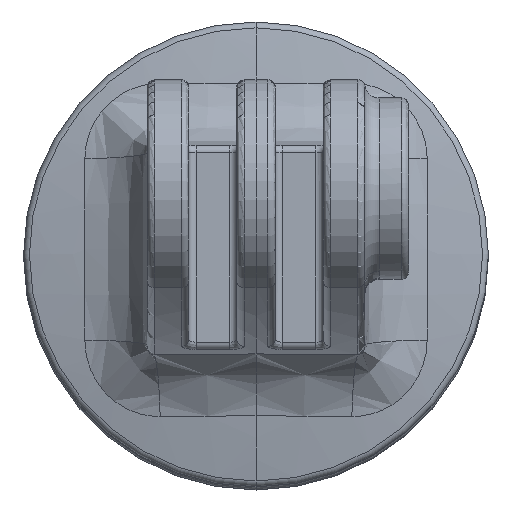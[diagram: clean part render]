
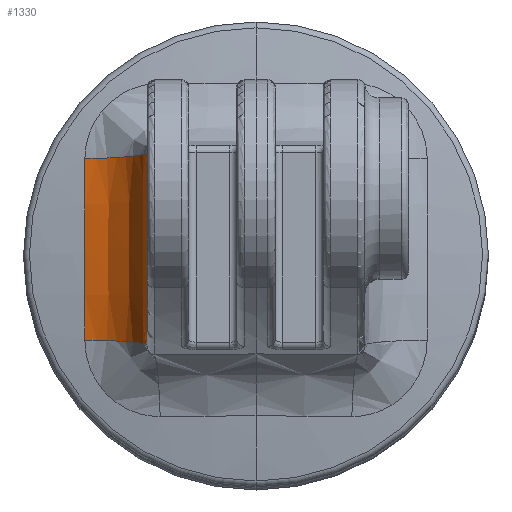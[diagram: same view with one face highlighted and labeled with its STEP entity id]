
A CAD part, top view. The second image highlights one B-rep face of the part: STEP entity #1330.
In plain terms, the highlighted free-form (B-spline) face has degree [3, 2] with [12, 3] control points.
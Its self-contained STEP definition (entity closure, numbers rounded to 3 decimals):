
#1330=ADVANCED_FACE('',(#3216),#3217,.F.);
#3216=FACE_OUTER_BOUND('',#8618,.T.);
#3217=(B_SPLINE_SURFACE(3,2,((#8620,#8621,#8622),(#8623,#8624,#8625),(#8626,#8627,#8628),(#8629,#8630,#8631),(#8632,#8633,#8634),(#8635,#8636,#8637),(#8638,#8639,#8640),(#8641,#8642,#8643),(#8644,#8645,#8646),(#8647,#8648,#8649),(#8650,#8651,#8652),(#8653,#8654,#8655)),.UNSPECIFIED.,.F.,.F.,.F.)B_SPLINE_SURFACE_WITH_KNOTS((4,2,2,2,2,4),(3,3),(0.,0.003,0.005,0.007,0.01,0.013),(0.0,1.0),.UNSPECIFIED.)RATIONAL_B_SPLINE_SURFACE(((1.0,0.756,1.0),(1.0,0.756,1.0),(1.0,0.756,1.0),(1.0,0.756,1.0),(1.0,0.756,1.0),(1.0,0.756,1.0),(1.0,0.756,1.0),(1.0,0.756,1.0),(1.0,0.756,1.0),(1.0,0.756,1.0),(1.0,0.756,1.0),(1.0,0.756,1.0)))BOUNDED_SURFACE()REPRESENTATION_ITEM('')GEOMETRIC_REPRESENTATION_ITEM()SURFACE());
#8618=EDGE_LOOP('',(#19353,#19354,#19355,#19356));
#8620=CARTESIAN_POINT('',(-11.781,-5.9,120.515));
#8621=CARTESIAN_POINT('',(-7.5,-5.945,121.135));
#8622=CARTESIAN_POINT('',(-7.5,-6.26,125.45));
#8623=CARTESIAN_POINT('',(-11.783,-4.859,120.591));
#8624=CARTESIAN_POINT('',(-7.5,-4.896,121.21));
#8625=CARTESIAN_POINT('',(-7.5,-5.154,125.531));
#8626=CARTESIAN_POINT('',(-11.785,-3.817,120.646));
#8627=CARTESIAN_POINT('',(-7.5,-3.846,121.265));
#8628=CARTESIAN_POINT('',(-7.5,-4.049,125.589));
#8629=CARTESIAN_POINT('',(-11.786,-2.255,120.699));
#8630=CARTESIAN_POINT('',(-7.5,-2.272,121.317));
#8631=CARTESIAN_POINT('',(-7.5,-2.391,125.646));
#8632=CARTESIAN_POINT('',(-11.787,-1.734,120.711));
#8633=CARTESIAN_POINT('',(-7.5,-1.747,121.329));
#8634=CARTESIAN_POINT('',(-7.5,-1.839,125.659));
#8635=CARTESIAN_POINT('',(-11.787,-0.692,120.727));
#8636=CARTESIAN_POINT('',(-7.5,-0.697,121.344));
#8637=CARTESIAN_POINT('',(-7.5,-0.734,125.676));
#8638=CARTESIAN_POINT('',(-11.787,-0.171,120.729));
#8639=CARTESIAN_POINT('',(-7.5,-0.172,121.347));
#8640=CARTESIAN_POINT('',(-7.5,-0.181,125.679));
#8641=CARTESIAN_POINT('',(-11.787,1.392,120.723));
#8642=CARTESIAN_POINT('',(-7.5,1.403,121.34));
#8643=CARTESIAN_POINT('',(-7.5,1.476,125.671));
#8644=CARTESIAN_POINT('',(-11.786,2.434,120.699));
#8645=CARTESIAN_POINT('',(-7.5,2.452,121.317));
#8646=CARTESIAN_POINT('',(-7.5,2.581,125.646));
#8647=CARTESIAN_POINT('',(-11.784,4.516,120.61));
#8648=CARTESIAN_POINT('',(-7.5,4.551,121.229));
#8649=CARTESIAN_POINT('',(-7.5,4.791,125.551));
#8650=CARTESIAN_POINT('',(-11.782,5.557,120.546));
#8651=CARTESIAN_POINT('',(-7.5,5.599,121.166));
#8652=CARTESIAN_POINT('',(-7.5,5.895,125.483));
#8653=CARTESIAN_POINT('',(-11.78,6.597,120.461));
#8654=CARTESIAN_POINT('',(-7.5,6.648,121.082));
#8655=CARTESIAN_POINT('',(-7.5,7.0,125.393));
#19353=ORIENTED_EDGE('',*,*,#25205,.T.);
#19354=ORIENTED_EDGE('',*,*,#25206,.F.);
#19355=ORIENTED_EDGE('',*,*,#25207,.F.);
#19356=ORIENTED_EDGE('',*,*,#25208,.F.);
#25205=EDGE_CURVE('',#29271,#29272,#29273,.T.);
#25206=EDGE_CURVE('',#28113,#29272,#29274,.T.);
#25207=EDGE_CURVE('',#29275,#28113,#29276,.T.);
#25208=EDGE_CURVE('',#29271,#29275,#29277,.T.);
#28113=VERTEX_POINT('',#34665);
#29271=VERTEX_POINT('',#39990);
#29272=VERTEX_POINT('',#39991);
#29273=CIRCLE('',#39992,5.0);
#29274=B_SPLINE_CURVE_WITH_KNOTS('',3,(#39993,#39994,#39995,#39996,#39997,#39998,#39999,#40000,#40001,#40002,#40003),.UNSPECIFIED.,.F.,.F.,(4,2,1,1,1,2,4),(0.0,0.003,0.005,0.007,0.008,0.01,0.013),.UNSPECIFIED.);
#29275=VERTEX_POINT('',#40004);
#29276=CIRCLE('',#40005,5.0);
#29277=B_SPLINE_CURVE_WITH_KNOTS('',3,(#40006,#40007,#40008,#40009,#40010,#40011,#40012,#40013,#40014,#40015,#40016,#40017,#40018,#40019,#40020),.UNSPECIFIED.,.F.,.F.,(4,2,1,1,1,2,2,1,1,4),(0.0,0.003,0.005,0.006,0.008,0.009,0.01,0.01,0.011,0.012),.UNSPECIFIED.);
#34665=CARTESIAN_POINT('',(-7.5,7.0,125.393));
#39990=CARTESIAN_POINT('',(-11.781,-5.9,120.515));
#39991=CARTESIAN_POINT('',(-7.5,-6.26,125.45));
#39992=AXIS2_PLACEMENT_3D('',#47497,#47498,#47499);
#39993=CARTESIAN_POINT('',(-7.5,7.0,125.393));
#39994=CARTESIAN_POINT('',(-7.5,5.895,125.483));
#39995=CARTESIAN_POINT('',(-7.5,4.791,125.551));
#39996=CARTESIAN_POINT('',(-7.5,3.134,125.622));
#39997=CARTESIAN_POINT('',(-7.5,2.029,125.659));
#39998=CARTESIAN_POINT('',(-7.5,0.371,125.681));
#39999=CARTESIAN_POINT('',(-7.5,-1.286,125.673));
#40000=CARTESIAN_POINT('',(-7.5,-2.391,125.646));
#40001=CARTESIAN_POINT('',(-7.5,-4.049,125.589));
#40002=CARTESIAN_POINT('',(-7.5,-5.154,125.531));
#40003=CARTESIAN_POINT('',(-7.5,-6.26,125.45));
#40004=CARTESIAN_POINT('',(-11.78,6.597,120.461));
#40005=AXIS2_PLACEMENT_3D('',#47500,#47501,#47502);
#40006=CARTESIAN_POINT('',(-11.781,-5.9,120.515));
#40007=CARTESIAN_POINT('',(-11.783,-4.859,120.591));
#40008=CARTESIAN_POINT('',(-11.785,-3.818,120.646));
#40009=CARTESIAN_POINT('',(-11.786,-2.256,120.699));
#40010=CARTESIAN_POINT('',(-11.787,-1.215,120.724));
#40011=CARTESIAN_POINT('',(-11.787,0.347,120.732));
#40012=CARTESIAN_POINT('',(-11.787,1.91,120.711));
#40013=CARTESIAN_POINT('',(-11.786,2.952,120.677));
#40014=CARTESIAN_POINT('',(-11.785,3.603,120.649));
#40015=CARTESIAN_POINT('',(-11.785,3.733,120.643));
#40016=CARTESIAN_POINT('',(-11.784,3.994,120.631));
#40017=CARTESIAN_POINT('',(-11.784,4.385,120.611));
#40018=CARTESIAN_POINT('',(-11.782,5.296,120.559));
#40019=CARTESIAN_POINT('',(-11.781,6.077,120.504));
#40020=CARTESIAN_POINT('',(-11.78,6.597,120.461));
#47497=CARTESIAN_POINT('',(-12.5,-6.26,125.45));
#47498=DIRECTION('',(0.,-0.997,-0.073));
#47499=DIRECTION('',(0.0,0.073,-0.997));
#47500=CARTESIAN_POINT('',(-12.5,7.0,125.393));
#47501=DIRECTION('',(0.,-0.997,0.082));
#47502=DIRECTION('',(0.0,-0.082,-0.997));
